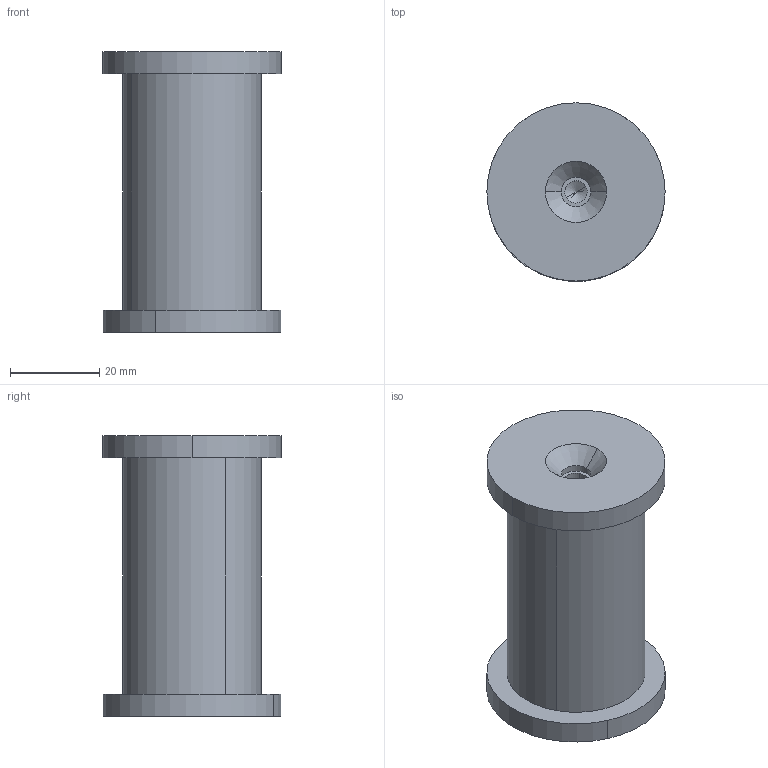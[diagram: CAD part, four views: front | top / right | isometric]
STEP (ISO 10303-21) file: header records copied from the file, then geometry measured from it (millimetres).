
FILE_DESCRIPTION (( 'STEP AP203' ), '1' );
FILE_NAME ('Bolzen Scheibe A M30.STEP', '2018-02-20T07:55:53', ( 'install' ), ( 'Hewlett-Packard Company' ), 'SwSTEP 2.0', 'SolidWorks 2017', '' );
FILE_SCHEMA (( 'CONFIG_CONTROL_DESIGN' ));
Length unit declared in the file: millimetre
Products named in the file (3): Bolzen Scheibe A M30; Bolzen ScheibeVarA_generisch_M30; Scheibe_M30
Assembly tree (3 placements, depth 2):
  Bolzen Scheibe A M30
    Scheibe_M30  x2
    Bolzen ScheibeVarA_generisch_M30
Bounding box: 40 x 40 x 63 mm (x, y, z)
Volume: 51180.7 mm3; surface area: 13515.2 mm2
Topology: 3 solids, 3 shells, 28 faces, 58 edges, 34 vertices
Faces by surface type: cylinder 14, cone 8, plane 6
Entity records: 853 total; most frequent: DIRECTION 112, CARTESIAN_POINT 88, ORIENTED_EDGE 76, AXIS2_PLACEMENT_3D 48, EDGE_CURVE 38, PERSON_AND_ORGANIZATION 27, EDGE_LOOP 24, VERTEX_POINT 24
